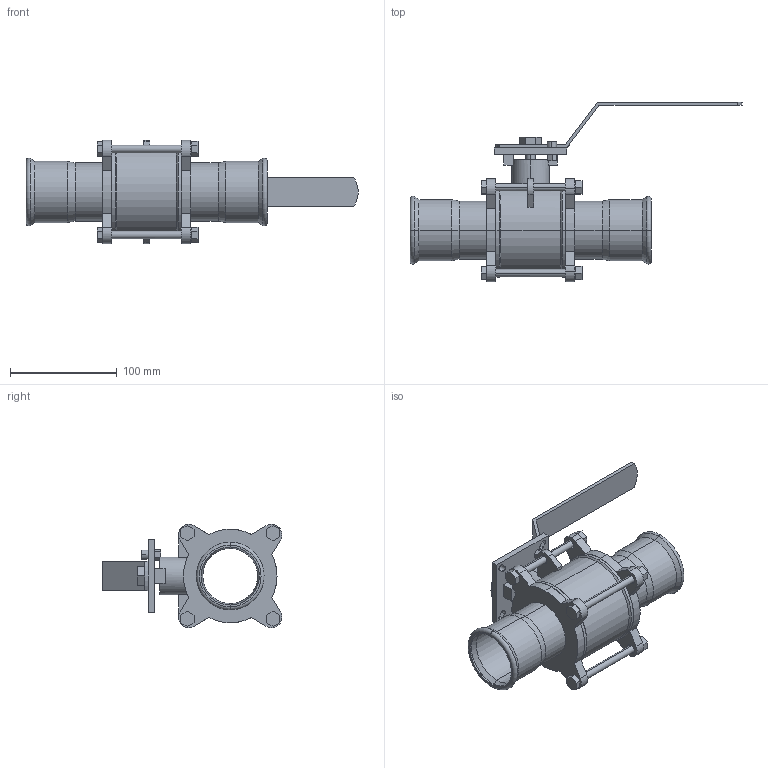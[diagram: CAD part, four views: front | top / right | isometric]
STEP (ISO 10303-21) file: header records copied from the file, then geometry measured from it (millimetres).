
FILE_DESCRIPTION (( 'STEP AP214' ), '1' );
FILE_NAME ('V5400PM.STEP', '2025-08-17T06:47:13', ( '' ), ( '' ), 'SwSTEP 2.0', 'SolidWorks 2020', '' );
FILE_SCHEMA (( 'AUTOMOTIVE_DESIGN' ));
Length unit declared in the file: millimetre
Products named in the file (1): V5400PM
Bounding box: 311.06 x 168.34 x 96.71 mm (x, y, z)
Volume: 450927.8 mm3; surface area: 173240.6 mm2
Topology: 7 solids, 7 shells, 489 faces, 1237 edges, 804 vertices
Faces by surface type: cylinder 240, plane 200, bspline 21, cone 20, torus 8
Entity records: 27462 total; most frequent: CARTESIAN_POINT 10639, ORIENTED_EDGE 2474, DIRECTION 2243, EDGE_CURVE 1237, VERTEX_POINT 804, AXIS2_PLACEMENT_3D 801, VECTOR 641, LINE 641
